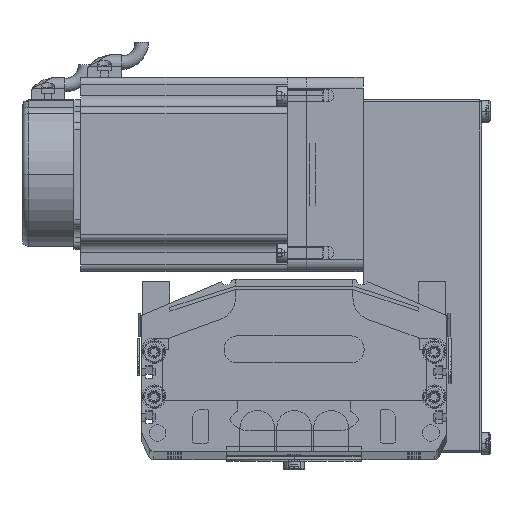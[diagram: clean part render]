
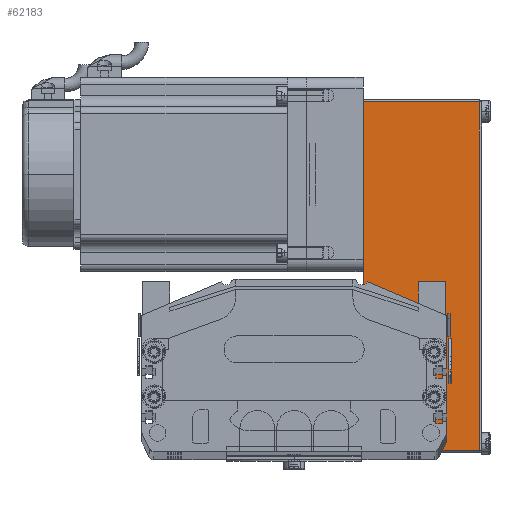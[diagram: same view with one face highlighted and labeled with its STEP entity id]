
A CAD part, top view. The second image highlights one B-rep face of the part: STEP entity #62183.
In plain terms, the highlighted planar face has unit normal (0, 0, 1) as drawn and (0, -1, 0) by its records, which use the part's own axes.
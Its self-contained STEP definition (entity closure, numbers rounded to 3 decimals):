
#44742 = DIRECTION ( 'NONE',  ( 0., 0., -1. ) ) ;
#44743 = VECTOR ( 'NONE', #44742, 1000. ) ;
#44744 = CARTESIAN_POINT ( 'NONE',  ( -123.2, -40., 52.5 ) ) ;
#44749 = LINE ( 'NONE', #44744, #44743 ) ;
#44985 = CARTESIAN_POINT ( 'NONE',  ( -123.2, -40., 51.5 ) ) ;
#46122 = CARTESIAN_POINT ( 'NONE',  ( -123.2, -40., 0. ) ) ;
#46439 = FACE_OUTER_BOUND ( 'NONE', #61500, .T. ) ;
#46454 = PLANE ( 'NONE',  #46481 ) ;
#46481 = AXIS2_PLACEMENT_3D ( 'NONE', #46722, #46602, #46607 ) ;
#46602 = DIRECTION ( 'NONE',  ( 0., 1., 0. ) ) ;
#46607 = DIRECTION ( 'NONE',  ( -1., 0., 0. ) ) ;
#46722 = CARTESIAN_POINT ( 'NONE',  ( 32., -40., 52.5 ) ) ;
#47606 = CARTESIAN_POINT ( 'NONE',  ( 31., -40., 0. ) ) ;
#47706 = DIRECTION ( 'NONE',  ( 1., 0., 0. ) ) ;
#47708 = VECTOR ( 'NONE', #47706, 1000. ) ;
#47710 = CARTESIAN_POINT ( 'NONE',  ( 32., -40., 0. ) ) ;
#47711 = LINE ( 'NONE', #47710, #47708 ) ;
#47778 = CARTESIAN_POINT ( 'NONE',  ( 31., -40., 51.5 ) ) ;
#47968 = VECTOR ( 'NONE', #48282, 1000. ) ;
#47985 = LINE ( 'NONE', #48215, #47968 ) ;
#48215 = CARTESIAN_POINT ( 'NONE',  ( 31., -40., 52.5 ) ) ;
#48282 = DIRECTION ( 'NONE',  ( 0., 0., 1. ) ) ;
#61500 = EDGE_LOOP ( 'NONE', ( #62933, #63684, #61793, #63484 ) ) ;
#61710 = EDGE_CURVE ( 'NONE', #61818, #62138, #44749, .T. ) ;
#61793 = ORIENTED_EDGE ( 'NONE', *, *, #63298, .T. ) ;
#61818 = VERTEX_POINT ( 'NONE', #44985 ) ;
#62138 = VERTEX_POINT ( 'NONE', #46122 ) ;
#62183 = ADVANCED_FACE ( 'NONE', ( #46439 ), #46454, .F. ) ;
#62317 = VERTEX_POINT ( 'NONE', #47606 ) ;
#62328 = VERTEX_POINT ( 'NONE', #47778 ) ;
#62330 = EDGE_CURVE ( 'NONE', #62138, #62317, #47711, .T. ) ;
#62468 = EDGE_CURVE ( 'NONE', #62317, #62328, #47985, .T. ) ;
#62933 = ORIENTED_EDGE ( 'NONE', *, *, #62330, .T. ) ;
#63298 = EDGE_CURVE ( 'NONE', #62328, #61818, #71749, .T. ) ;
#63484 = ORIENTED_EDGE ( 'NONE', *, *, #61710, .T. ) ;
#63684 = ORIENTED_EDGE ( 'NONE', *, *, #62468, .T. ) ;
#71749 = LINE ( 'NONE', #71752, #71754 ) ;
#71751 = DIRECTION ( 'NONE',  ( -1., 0., 0. ) ) ;
#71752 = CARTESIAN_POINT ( 'NONE',  ( 32., -40., 51.5 ) ) ;
#71754 = VECTOR ( 'NONE', #71751, 1000. ) ;
